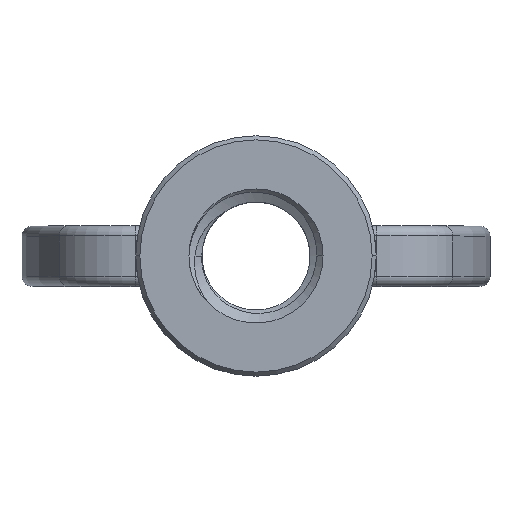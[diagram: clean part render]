
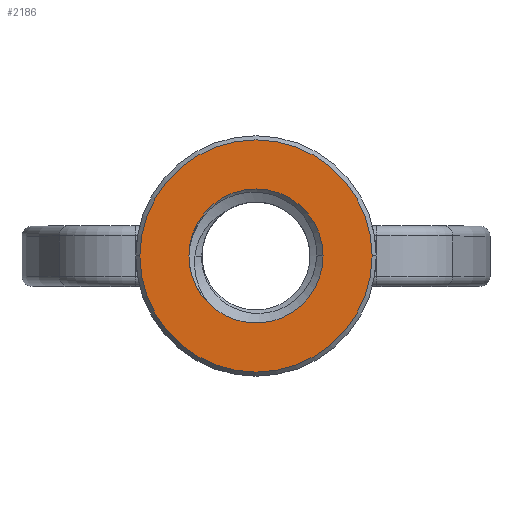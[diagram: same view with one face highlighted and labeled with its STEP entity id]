
A CAD part, top view. The second image highlights one B-rep face of the part: STEP entity #2186.
In plain terms, the highlighted planar face has unit normal (0, 0, 1).
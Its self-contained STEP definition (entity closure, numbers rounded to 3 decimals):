
#8 = ORIENTED_EDGE ( 'NONE', *, *, #822, .F. ) ;
#103 = DIRECTION ( 'NONE',  ( 0., 0., 1. ) ) ;
#218 = CARTESIAN_POINT ( 'NONE',  ( -8.658, 0., 0. ) ) ;
#235 = CIRCLE ( 'NONE', #2697, 5. ) ;
#256 = ORIENTED_EDGE ( 'NONE', *, *, #385, .T. ) ;
#333 = CARTESIAN_POINT ( 'NONE',  ( 8.658, 0., 0. ) ) ;
#385 = EDGE_CURVE ( 'NONE', #2918, #2175, #3101, .T. ) ;
#407 = CIRCLE ( 'NONE', #2486, 8.658 ) ;
#737 = AXIS2_PLACEMENT_3D ( 'NONE', #2274, #2980, #1583 ) ;
#775 = EDGE_CURVE ( 'NONE', #2175, #2918, #407, .T. ) ;
#822 = EDGE_CURVE ( 'NONE', #2357, #1852, #3043, .T. ) ;
#878 = FACE_BOUND ( 'NONE', #1879, .T. ) ;
#923 = DIRECTION ( 'NONE',  ( 1., 0., 0. ) ) ;
#1132 = CARTESIAN_POINT ( 'NONE',  ( -5., 0., 0. ) ) ;
#1153 = ORIENTED_EDGE ( 'NONE', *, *, #2462, .F. ) ;
#1186 = DIRECTION ( 'NONE',  ( 1., 0., 0. ) ) ;
#1197 = DIRECTION ( 'NONE',  ( 0., 0., 1. ) ) ;
#1206 = CARTESIAN_POINT ( 'NONE',  ( 0., 0., 0. ) ) ;
#1246 = DIRECTION ( 'NONE',  ( 0., 0., 1. ) ) ;
#1303 = ORIENTED_EDGE ( 'NONE', *, *, #2647, .F. ) ;
#1388 = DIRECTION ( 'NONE',  ( 0., 0., 1. ) ) ;
#1416 = DIRECTION ( 'NONE',  ( 0., 0., 1. ) ) ;
#1444 = CARTESIAN_POINT ( 'NONE',  ( 5., 0., 0. ) ) ;
#1524 = FACE_OUTER_BOUND ( 'NONE', #3058, .T. ) ;
#1583 = DIRECTION ( 'NONE',  ( 1., 0., 0. ) ) ;
#1604 = CARTESIAN_POINT ( 'NONE',  ( 0., 0., 0. ) ) ;
#1753 = ORIENTED_EDGE ( 'NONE', *, *, #775, .T. ) ;
#1847 = DIRECTION ( 'NONE',  ( 1., 0., 0. ) ) ;
#1852 = VERTEX_POINT ( 'NONE', #1444 ) ;
#1872 = CIRCLE ( 'NONE', #2261, 5. ) ;
#1878 = AXIS2_PLACEMENT_3D ( 'NONE', #1604, #103, #1847 ) ;
#1879 = EDGE_LOOP ( 'NONE', ( #8, #1303, #1153 ) ) ;
#1881 = CARTESIAN_POINT ( 'NONE',  ( -3.568, -3.503, 0. ) ) ;
#2175 = VERTEX_POINT ( 'NONE', #333 ) ;
#2186 = ADVANCED_FACE ( 'NONE', ( #1524, #878 ), #2733, .T. ) ;
#2261 = AXIS2_PLACEMENT_3D ( 'NONE', #2642, #1246, #2882 ) ;
#2274 = CARTESIAN_POINT ( 'NONE',  ( 0., 0., 0. ) ) ;
#2301 = VERTEX_POINT ( 'NONE', #1132 ) ;
#2357 = VERTEX_POINT ( 'NONE', #1881 ) ;
#2462 = EDGE_CURVE ( 'NONE', #1852, #2301, #1872, .T. ) ;
#2486 = AXIS2_PLACEMENT_3D ( 'NONE', #1206, #1197, #1186 ) ;
#2642 = CARTESIAN_POINT ( 'NONE',  ( 0., 0., 0. ) ) ;
#2647 = EDGE_CURVE ( 'NONE', #2301, #2357, #235, .T. ) ;
#2661 = CARTESIAN_POINT ( 'NONE',  ( 0., 0., 0. ) ) ;
#2697 = AXIS2_PLACEMENT_3D ( 'NONE', #2777, #1388, #3025 ) ;
#2733 = PLANE ( 'NONE',  #737 ) ;
#2777 = CARTESIAN_POINT ( 'NONE',  ( 0., 0., 0. ) ) ;
#2816 = AXIS2_PLACEMENT_3D ( 'NONE', #2661, #1416, #923 ) ;
#2882 = DIRECTION ( 'NONE',  ( 1., 0., 0. ) ) ;
#2918 = VERTEX_POINT ( 'NONE', #218 ) ;
#2980 = DIRECTION ( 'NONE',  ( 0., 0., 1. ) ) ;
#3025 = DIRECTION ( 'NONE',  ( 1., 0., 0. ) ) ;
#3043 = CIRCLE ( 'NONE', #1878, 5. ) ;
#3058 = EDGE_LOOP ( 'NONE', ( #256, #1753 ) ) ;
#3101 = CIRCLE ( 'NONE', #2816, 8.658 ) ;
